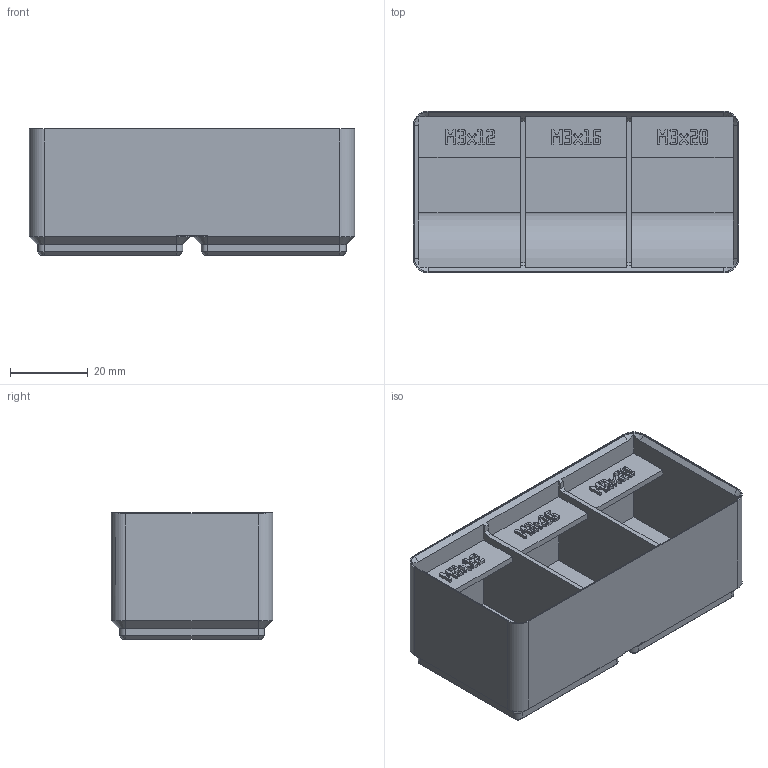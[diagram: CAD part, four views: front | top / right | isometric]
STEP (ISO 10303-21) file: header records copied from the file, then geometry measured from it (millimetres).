
FILE_DESCRIPTION(('Open CASCADE Model'),'2;1');
FILE_NAME('Open CASCADE Shape Model','2026-11-16T13:40:09',('Author'),( 'Open CASCADE'),'Open CASCADE STEP processor 8.0','build123d', 'Unknown');
FILE_SCHEMA(('AUTOMOTIVE_DESIGN { 1 0 10303 214 1 1 1 1 }'));
Products named in the file (1): SOLID
Bounding box: 83.5 x 41.5 x 32.4 mm (x, y, z)
Volume: 46155.7 mm3; surface area: 23543.9 mm2
Topology: 1 solids, 1 shells, 1738 faces, 5092 edges, 3376 vertices
Faces by surface type: plane 1695, cylinder 23, cone 20
Entity records: 119148 total; most frequent: CARTESIAN_POINT 24074, DIRECTION 15250, LINE 11617, VECTOR 11617, ORIENTED_EDGE 10184, PCURVE 10184, DEFINITIONAL_REPRESENTATION 10184, EDGE_CURVE 5092
